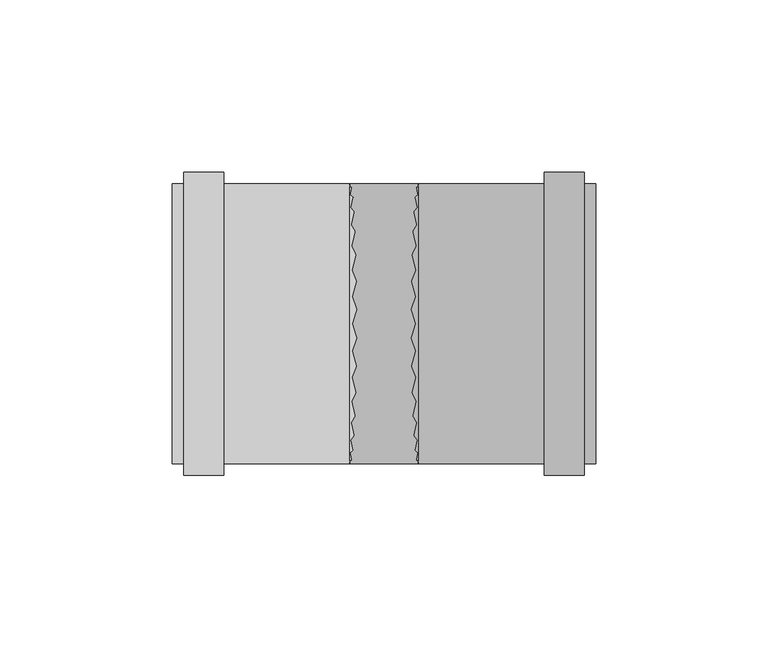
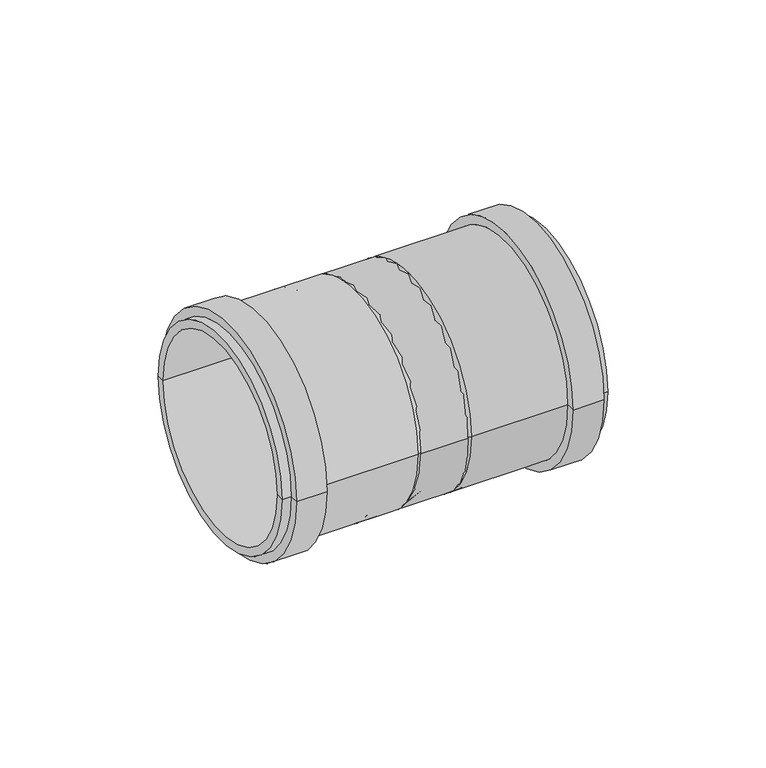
"""IFC4 building model written with IfcOpenShell, lengths in millimetres: pipe fitting geometry, pf_HTU : pf_HTU."""

from ifc_helpers import new_model, si_unit, point, frame, origin, origin_2d, place, context, project, spatial, polyline, circle_curve, trimmed, segment, composite_curve, outline, extrude, source, transform, mapped, element, save
from ifc_brep_helpers import plane_surface, cylinder_surface, revolved_surface, advanced_brep


def pipe_fitting_7cd02927(model_context):
    return source(origin(), model_context, "Body", "SolidModel", [
        advanced_brep(
        [(6.5, -37.5, 0.0), (6.5, 37.5, 0.0), (16.0, 40.6, 0.0), (16.0, -40.6, 0.0), (6.5, 0.0, 0.0), (67.5, -40.6, 0.0), (67.5, 40.6, 0.0), (67.5, 37.5, 0.0), (67.5, -37.5, 0.0), (64.1, -40.6, 0.0), (64.1, 40.6, 0.0), (64.1, -44.0, 0.0), (64.1, 44.0, 0.0), (52.5, -44.0, 0.0), (52.5, 44.0, 0.0), (52.5, -40.6, 0.0), (52.5, 40.6, 0.0), (16.0, -37.5, 0.0), (16.0, 37.5, 0.0), (16.0, 0.0, 0.0)],
        [
            (0, 1, circle_curve(frame((6.5, 0.0, 0.0), z_axis=(1.0, 0.0, 0.0), x_axis=(0.0, 1.0, 0.0)), 37.5)),
            (1, 2),
            (2, 3, circle_curve(frame((16.0, 0.0, 0.0), z_axis=(-1.0, 0.0, 0.0), x_axis=(0.0, 1.0, 0.0)), 40.6)),
            (3, 0),
            (1, 0, circle_curve(frame((6.5, 0.0, 0.0), z_axis=(1.0, 0.0, 0.0), x_axis=(0.0, 1.0, 0.0)), 37.5)),
            (3, 2, circle_curve(frame((16.0, 0.0, 0.0), z_axis=(-1.0, 0.0, 0.0), x_axis=(0.0, 1.0, 0.0)), 40.6)),
            (4, 1),
            (0, 4),
            (5, 6, circle_curve(frame((67.5, 0.0, 0.0), z_axis=(1.0, 0.0, 0.0), x_axis=(0.0, 1.0, 0.0)), 40.6)),
            (6, 7),
            (7, 8, circle_curve(frame((67.5, 0.0, 0.0), z_axis=(-1.0, 0.0, 0.0), x_axis=(0.0, 1.0, 0.0)), 37.5)),
            (8, 5),
            (6, 5, circle_curve(frame((67.5, 0.0, 0.0), z_axis=(1.0, 0.0, 0.0), x_axis=(0.0, 1.0, 0.0)), 40.6)),
            (8, 7, circle_curve(frame((67.5, 0.0, 0.0), z_axis=(-1.0, 0.0, 0.0), x_axis=(0.0, 1.0, 0.0)), 37.5)),
            (9, 10, circle_curve(frame((64.1, 0.0, 0.0), z_axis=(1.0, 0.0, 0.0), x_axis=(0.0, 1.0, 0.0)), 40.6)),
            (10, 6),
            (5, 9),
            (10, 9, circle_curve(frame((64.1, 0.0, 0.0), z_axis=(1.0, 0.0, 0.0), x_axis=(0.0, 1.0, 0.0)), 40.6)),
            (11, 12, circle_curve(frame((64.1, 0.0, 0.0), z_axis=(1.0, 0.0, 0.0), x_axis=(0.0, 1.0, 0.0)), 44.0)),
            (12, 10),
            (9, 11),
            (12, 11, circle_curve(frame((64.1, 0.0, 0.0), z_axis=(1.0, 0.0, 0.0), x_axis=(0.0, 1.0, 0.0)), 44.0)),
            (13, 14, circle_curve(frame((52.5, 0.0, 0.0), z_axis=(1.0, 0.0, 0.0), x_axis=(0.0, 1.0, 0.0)), 44.0)),
            (14, 12),
            (11, 13),
            (14, 13, circle_curve(frame((52.5, 0.0, 0.0), z_axis=(1.0, 0.0, 0.0), x_axis=(0.0, 1.0, 0.0)), 44.0)),
            (15, 16, circle_curve(frame((52.5, 0.0, 0.0), z_axis=(1.0, 0.0, 0.0), x_axis=(0.0, 1.0, 0.0)), 40.6)),
            (16, 14),
            (13, 15),
            (16, 15, circle_curve(frame((52.5, 0.0, 0.0), z_axis=(1.0, 0.0, 0.0), x_axis=(0.0, 1.0, 0.0)), 40.6)),
            (2, 16),
            (15, 3),
            (17, 18, circle_curve(frame((16.0, 0.0, 0.0), z_axis=(1.0, 0.0, 0.0), x_axis=(0.0, 1.0, 0.0)), 37.5)),
            (18, 19),
            (19, 17),
            (18, 17, circle_curve(frame((16.0, 0.0, 0.0), z_axis=(1.0, 0.0, 0.0), x_axis=(0.0, 1.0, 0.0)), 37.5)),
            (7, 18),
            (17, 8),
        ],
        [
            revolved_surface(polyline([(16.0, 40.6, 0.0), (6.5, 37.5, 0.0)]), (6.5, 0.0, 0.0), (-1.0, 0.0, 0.0)),
            plane_surface(frame((6.5, 0.0, 0.0), z_axis=(-1.0, 0.0, 0.0), x_axis=(0.0, 1.0, 0.0))),
            plane_surface(frame((67.5, 0.0, 0.0), z_axis=(1.0, 0.0, 0.0), x_axis=(0.0, 1.0, 0.0))),
            cylinder_surface(frame((6.5, 0.0, 0.0), z_axis=(-1.0, 0.0, 0.0), x_axis=(0.0, 1.0, 0.0)), 40.6),
            plane_surface(frame((64.1, 0.0, 0.0), z_axis=(1.0, 0.0, 0.0), x_axis=(0.0, 1.0, 0.0))),
            cylinder_surface(frame((6.5, 0.0, 0.0), z_axis=(-1.0, 0.0, 0.0), x_axis=(0.0, 1.0, 0.0)), 44.0),
            plane_surface(frame((52.5, 0.0, 0.0), z_axis=(-1.0, 0.0, 0.0), x_axis=(0.0, 1.0, 0.0))),
            plane_surface(frame((16.0, 0.0, 0.0), z_axis=(1.0, 0.0, 0.0), x_axis=(0.0, 1.0, 0.0))),
            revolved_surface(polyline([(16.0, 37.5, 0.0), (67.5, 37.5, 0.0)]), (6.5, 0.0, 0.0), (-1.0, 0.0, 0.0)),
        ],
        [
            (0, [[1, 2, 3, 4]]),
            (0, [[5, -4, 6, -2]]),
            (1, [[7, -1, 8]]),
            (1, [[-8, -5, -7]]),
            (2, [[9, 10, 11, 12]]),
            (2, [[13, -12, 14, -10]]),
            (3, [[15, 16, -9, 17]]),
            (3, [[18, -17, -13, -16]]),
            (4, [[19, 20, -15, 21]]),
            (4, [[22, -21, -18, -20]]),
            (5, [[23, 24, -19, 25]]),
            (5, [[26, -25, -22, -24]]),
            (6, [[27, 28, -23, 29]]),
            (6, [[30, -29, -26, -28]]),
            (3, [[-3, 31, -27, 32]]),
            (3, [[-6, -32, -30, -31]]),
            (7, [[33, 34, 35]]),
            (7, [[36, -35, -34]]),
            (8, [[-11, 37, -33, 38]]),
            (8, [[-14, -38, -36, -37]]),
        ],
    ),
        advanced_brep(
        [(5.5, 37.5, 0.0), (5.5, -37.5, 0.0), (-4.0, -40.6, 0.0), (-4.0, 40.6, 0.0), (5.5, 0.0, 0.0), (-55.5, 40.6, 0.0), (-55.5, -40.6, 0.0), (-55.5, -37.5, 0.0), (-55.5, 37.5, 0.0), (-52.1, 40.6, 0.0), (-52.1, -40.6, 0.0), (-52.1, 44.0, 0.0), (-52.1, -44.0, 0.0), (-40.5, 44.0, 0.0), (-40.5, -44.0, 0.0), (-40.5, 40.6, 0.0), (-40.5, -40.6, 0.0), (-4.0, 37.5, 0.0), (-4.0, -37.5, 0.0), (-4.0, 0.0, 0.0)],
        [
            (0, 1, circle_curve(frame((5.5, 0.0, 0.0), z_axis=(-1.0, 0.0, 0.0), x_axis=(0.0, -1.0, 0.0)), 37.5)),
            (1, 2),
            (2, 3, circle_curve(frame((-4.0, 0.0, 0.0), z_axis=(1.0, 0.0, 0.0), x_axis=(0.0, -1.0, 0.0)), 40.6)),
            (3, 0),
            (1, 0, circle_curve(frame((5.5, 0.0, 0.0), z_axis=(-1.0, 0.0, 0.0), x_axis=(0.0, -1.0, 0.0)), 37.5)),
            (3, 2, circle_curve(frame((-4.0, 0.0, 0.0), z_axis=(1.0, 0.0, 0.0), x_axis=(0.0, -1.0, 0.0)), 40.6)),
            (4, 1),
            (0, 4),
            (5, 6, circle_curve(frame((-55.5, 0.0, 0.0), z_axis=(-1.0, 0.0, 0.0), x_axis=(0.0, -1.0, 0.0)), 40.6)),
            (6, 7),
            (7, 8, circle_curve(frame((-55.5, 0.0, 0.0), z_axis=(1.0, 0.0, 0.0), x_axis=(0.0, -1.0, 0.0)), 37.5)),
            (8, 5),
            (6, 5, circle_curve(frame((-55.5, 0.0, 0.0), z_axis=(-1.0, 0.0, 0.0), x_axis=(0.0, -1.0, 0.0)), 40.6)),
            (8, 7, circle_curve(frame((-55.5, 0.0, 0.0), z_axis=(1.0, 0.0, 0.0), x_axis=(0.0, -1.0, 0.0)), 37.5)),
            (9, 10, circle_curve(frame((-52.1, 0.0, 0.0), z_axis=(-1.0, 0.0, 0.0), x_axis=(0.0, -1.0, 0.0)), 40.6)),
            (10, 6),
            (5, 9),
            (10, 9, circle_curve(frame((-52.1, 0.0, 0.0), z_axis=(-1.0, 0.0, 0.0), x_axis=(0.0, -1.0, 0.0)), 40.6)),
            (11, 12, circle_curve(frame((-52.1, 0.0, 0.0), z_axis=(-1.0, 0.0, 0.0), x_axis=(0.0, -1.0, 0.0)), 44.0)),
            (12, 10),
            (9, 11),
            (12, 11, circle_curve(frame((-52.1, 0.0, 0.0), z_axis=(-1.0, 0.0, 0.0), x_axis=(0.0, -1.0, 0.0)), 44.0)),
            (13, 14, circle_curve(frame((-40.5, 0.0, 0.0), z_axis=(-1.0, 0.0, 0.0), x_axis=(0.0, -1.0, 0.0)), 44.0)),
            (14, 12),
            (11, 13),
            (14, 13, circle_curve(frame((-40.5, 0.0, 0.0), z_axis=(-1.0, 0.0, 0.0), x_axis=(0.0, -1.0, 0.0)), 44.0)),
            (15, 16, circle_curve(frame((-40.5, 0.0, 0.0), z_axis=(-1.0, 0.0, 0.0), x_axis=(0.0, -1.0, 0.0)), 40.6)),
            (16, 14),
            (13, 15),
            (16, 15, circle_curve(frame((-40.5, 0.0, 0.0), z_axis=(-1.0, 0.0, 0.0), x_axis=(0.0, -1.0, 0.0)), 40.6)),
            (2, 16),
            (15, 3),
            (17, 18, circle_curve(frame((-4.0, 0.0, 0.0), z_axis=(-1.0, 0.0, 0.0), x_axis=(0.0, -1.0, 0.0)), 37.5)),
            (18, 19),
            (19, 17),
            (18, 17, circle_curve(frame((-4.0, 0.0, 0.0), z_axis=(-1.0, 0.0, 0.0), x_axis=(0.0, -1.0, 0.0)), 37.5)),
            (7, 18),
            (17, 8),
        ],
        [
            revolved_surface(polyline([(-4.0, -40.6, 0.0), (5.5, -37.5, 0.0)]), (5.5, 0.0, 0.0), (1.0, 0.0, 0.0)),
            plane_surface(frame((5.5, 0.0, 0.0), z_axis=(1.0, 0.0, 0.0), x_axis=(0.0, -1.0, 0.0))),
            plane_surface(frame((-55.5, 0.0, 0.0), z_axis=(-1.0, 0.0, 0.0), x_axis=(0.0, -1.0, 0.0))),
            cylinder_surface(frame((5.5, 0.0, 0.0), z_axis=(1.0, 0.0, 0.0), x_axis=(0.0, -1.0, 0.0)), 40.6),
            plane_surface(frame((-52.1, 0.0, 0.0), z_axis=(-1.0, 0.0, 0.0), x_axis=(0.0, -1.0, 0.0))),
            cylinder_surface(frame((5.5, 0.0, 0.0), z_axis=(1.0, 0.0, 0.0), x_axis=(0.0, -1.0, 0.0)), 44.0),
            plane_surface(frame((-40.5, 0.0, 0.0), z_axis=(1.0, 0.0, 0.0), x_axis=(0.0, -1.0, 0.0))),
            plane_surface(frame((-4.0, 0.0, 0.0), z_axis=(-1.0, 0.0, 0.0), x_axis=(0.0, -1.0, 0.0))),
            revolved_surface(polyline([(-4.0, -37.5, 0.0), (-55.5, -37.5, 0.0)]), (5.5, 0.0, 0.0), (1.0, 0.0, 0.0)),
        ],
        [
            (0, [[1, 2, 3, 4]]),
            (0, [[5, -4, 6, -2]]),
            (1, [[7, -1, 8]]),
            (1, [[-8, -5, -7]]),
            (2, [[9, 10, 11, 12]]),
            (2, [[13, -12, 14, -10]]),
            (3, [[15, 16, -9, 17]]),
            (3, [[18, -17, -13, -16]]),
            (4, [[19, 20, -15, 21]]),
            (4, [[22, -21, -18, -20]]),
            (5, [[23, 24, -19, 25]]),
            (5, [[26, -25, -22, -24]]),
            (6, [[27, 28, -23, 29]]),
            (6, [[30, -29, -26, -28]]),
            (3, [[-3, 31, -27, 32]]),
            (3, [[-6, -32, -30, -31]]),
            (7, [[33, 34, 35]]),
            (7, [[36, -35, -34]]),
            (8, [[-11, 37, -33, 38]]),
            (8, [[-14, -38, -36, -37]]),
        ],
    ),
        extrude(outline(composite_curve([segment(trimmed(circle_curve(origin_2d(), 40.6), [point((-40.6, 0.0))], [point((40.6, 0.0))], False, "CARTESIAN"), True, "CONTINUOUS"), segment(trimmed(circle_curve(origin_2d(), 40.6), [point((40.6, 0.0))], [point((-40.6, 0.0))], False, "CARTESIAN"), True, "CONTINUOUS")], self_intersect=False)), frame((-19.2389226, 0.0, 0.0), z_axis=(1.0, 0.0, 0.0), x_axis=(0.0, 1.0, 0.0)), (0.0, 0.0, 1.0), 38.4778452),
    ])


if __name__ == "__main__":
    model = new_model("IFC4")
    model_context = context("Model", 3, world=origin())
    ifc_project = project(units=[si_unit("LENGTHUNIT", "METRE", prefix="MILLI")], contexts=[model_context])
    site = spatial("IfcSite", under=ifc_project)
    building = spatial("IfcBuilding", under=site)
    placement = place(None, origin())
    pipe_fitting_shape = pipe_fitting_7cd02927(model_context)
    element("IfcPipeFitting", 1, ObjectType="pf_HTU : pf_HTU", at=placement, inside=building, context=model_context, shape_type="MappedRepresentation", body=[
        mapped(pipe_fitting_shape, transform((0.0, 0.0, 0.0), x_axis=(1.0, 0.0, 0.0), y_axis=(0.0, 1.0, 0.0), z_axis=(0.0, 0.0, 1.0))),
    ])
    save(model, "model.ifc")
